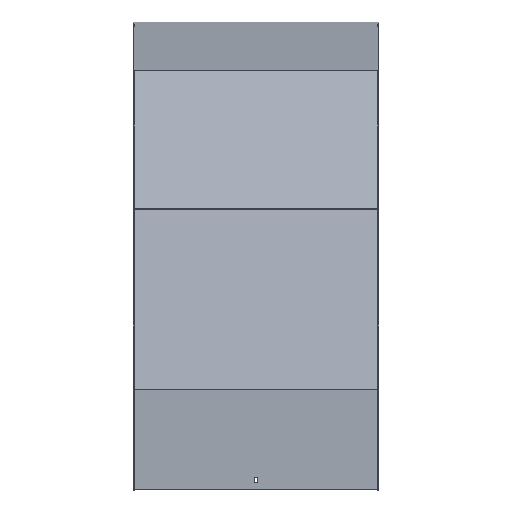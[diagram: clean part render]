
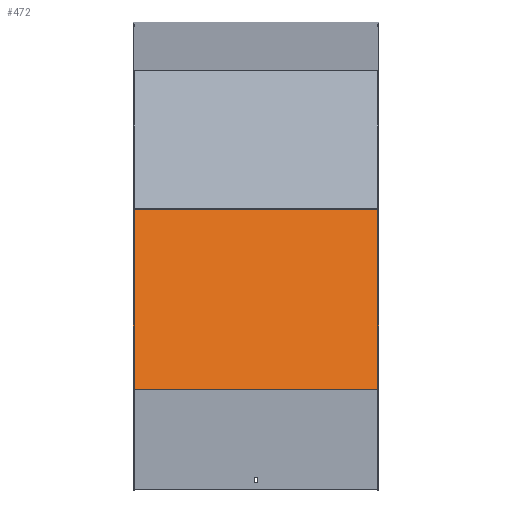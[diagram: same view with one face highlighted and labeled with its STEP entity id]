
A CAD part, top view. The second image highlights one B-rep face of the part: STEP entity #472.
In plain terms, the highlighted planar face has unit normal (0, 0.259, 0.966).
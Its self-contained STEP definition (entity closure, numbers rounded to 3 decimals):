
#6 = VERTEX_POINT ( 'NONE', #787 ) ;
#18 = DIRECTION ( 'NONE',  ( 0., 0.966, -0.259 ) ) ;
#25 = DIRECTION ( 'NONE',  ( 0., -0.259, -0.966 ) ) ;
#54 = DIRECTION ( 'NONE',  ( -1., 0., 0. ) ) ;
#84 = CARTESIAN_POINT ( 'NONE',  ( -201.5, -292.828, 691.748 ) ) ;
#119 = PLANE ( 'NONE',  #683 ) ;
#140 = EDGE_CURVE ( 'NONE', #521, #496, #564, .T. ) ;
#181 = CARTESIAN_POINT ( 'NONE',  ( -201.5, -287.651, 690.361 ) ) ;
#271 = CARTESIAN_POINT ( 'NONE',  ( -201.5, -584.183, 769.816 ) ) ;
#292 = LINE ( 'NONE', #641, #555 ) ;
#345 = ORIENTED_EDGE ( 'NONE', *, *, #140, .T. ) ;
#462 = CARTESIAN_POINT ( 'NONE',  ( 201.5, -287.651, 690.361 ) ) ;
#472 = ADVANCED_FACE ( 'NONE', ( #797 ), #119, .F. ) ;
#489 = VECTOR ( 'NONE', #750, 1000. ) ;
#496 = VERTEX_POINT ( 'NONE', #181 ) ;
#511 = VERTEX_POINT ( 'NONE', #271 ) ;
#521 = VERTEX_POINT ( 'NONE', #462 ) ;
#540 = CARTESIAN_POINT ( 'NONE',  ( 201.5, -292.828, 691.748 ) ) ;
#542 = CARTESIAN_POINT ( 'NONE',  ( 201.5, -287.651, 690.361 ) ) ;
#547 = VECTOR ( 'NONE', #631, 1000. ) ;
#555 = VECTOR ( 'NONE', #644, 1000. ) ;
#564 = LINE ( 'NONE', #542, #757 ) ;
#607 = ORIENTED_EDGE ( 'NONE', *, *, #751, .T. ) ;
#631 = DIRECTION ( 'NONE',  ( 0., -0.966, 0.259 ) ) ;
#641 = CARTESIAN_POINT ( 'NONE',  ( 201.5, -292.828, 691.748 ) ) ;
#644 = DIRECTION ( 'NONE',  ( 0., -0.966, 0.259 ) ) ;
#660 = LINE ( 'NONE', #1019, #489 ) ;
#683 = AXIS2_PLACEMENT_3D ( 'NONE', #540, #25, #18 ) ;
#688 = EDGE_LOOP ( 'NONE', ( #607, #702, #897, #345 ) ) ;
#702 = ORIENTED_EDGE ( 'NONE', *, *, #1022, .F. ) ;
#750 = DIRECTION ( 'NONE',  ( -1., 0., 0. ) ) ;
#751 = EDGE_CURVE ( 'NONE', #496, #511, #1065, .T. ) ;
#757 = VECTOR ( 'NONE', #54, 1000. ) ;
#787 = CARTESIAN_POINT ( 'NONE',  ( 201.5, -584.183, 769.816 ) ) ;
#797 = FACE_OUTER_BOUND ( 'NONE', #688, .T. ) ;
#897 = ORIENTED_EDGE ( 'NONE', *, *, #998, .F. ) ;
#998 = EDGE_CURVE ( 'NONE', #521, #6, #292, .T. ) ;
#1019 = CARTESIAN_POINT ( 'NONE',  ( 201.5, -584.183, 769.816 ) ) ;
#1022 = EDGE_CURVE ( 'NONE', #6, #511, #660, .T. ) ;
#1065 = LINE ( 'NONE', #84, #547 ) ;
